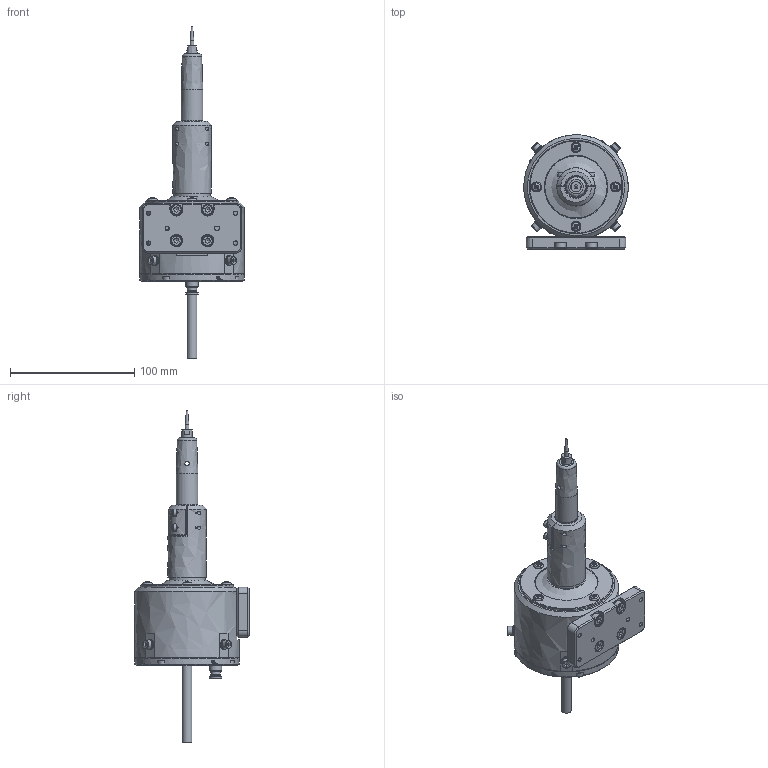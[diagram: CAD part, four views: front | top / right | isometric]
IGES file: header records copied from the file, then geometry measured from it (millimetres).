
Global section: file name: RC201-000-000-D_總組合_Shrinkwrap_1; native system: Autodesk Inventor 2021; preprocessor: unknown; author: Booster; date: 20210531.124135; units: inch
Bounding box: 84 x 92 x 267 mm (x, y, z)
Volume: 240240.4 mm3; surface area: 105793.3 mm2
Topology: 46 solids, 46 shells, 1016 faces, 2398 edges, 1499 vertices
Faces by surface type: bspline 1016
